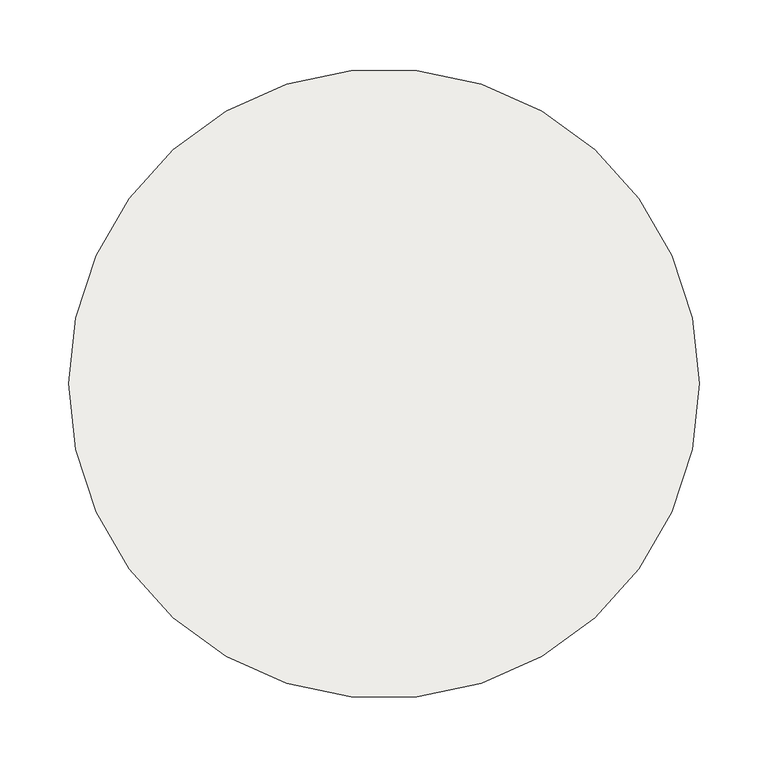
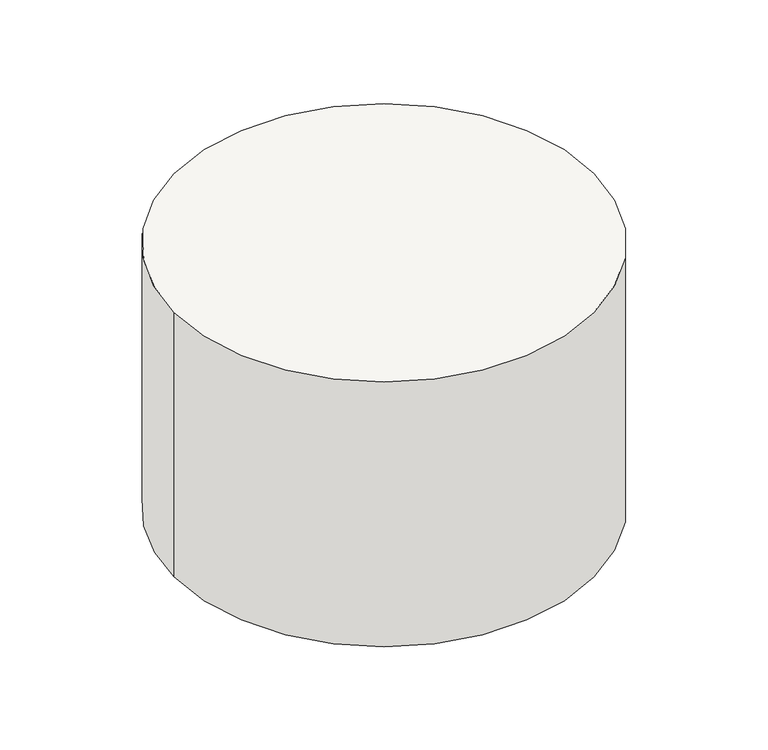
"""IFC4 building model written with IfcOpenShell, lengths in millimetres: slab geometry."""

from ifc_helpers import new_model, si_unit, point, frame, frame_2d, origin, place, context, project, spatial, circle_curve, trimmed, segment, composite_curve, outline, extrude, source, transform, mapped, element, save


def slab_1e07954e(model_context):
    return source(origin(), model_context, "Body", "SweptSolid", [
        extrude(outline(composite_curve([segment(trimmed(circle_curve(frame_2d((-15263.9413349, -697.579029)), 228.6), [point((-15492.5413349, -697.579029))], [point((-15035.3413349, -697.579029))], False, "CARTESIAN"), True, "CONTINUOUS"), segment(trimmed(circle_curve(frame_2d((-15263.9413349, -697.579029)), 228.6), [point((-15035.3413349, -697.579029))], [point((-15492.5413349, -697.579029))], False, "CARTESIAN"), True, "CONTINUOUS")], self_intersect=False)), frame((0.0, 0.0, -815.975), z_axis=(0.0, 0.0, 1.0), x_axis=(1.0, 0.0, 0.0)), (0.0, 0.0, 1.0), 304.8),
    ])


if __name__ == "__main__":
    model = new_model("IFC4")
    model_context = context("Model", 3, world=origin())
    ifc_project = project(units=[si_unit("LENGTHUNIT", "METRE", prefix="MILLI")], contexts=[model_context])
    site = spatial("IfcSite", under=ifc_project)
    building = spatial("IfcBuilding", under=site)
    placement = place(None, origin())
    slab_shape = slab_1e07954e(model_context)
    element("IfcSlab", 1, ObjectType="18\" d x 12\" deep footing : 18\" d x 12\" deep footing", at=placement, inside=building, context=model_context, shape_type="MappedRepresentation", body=[
        mapped(slab_shape, transform((0.0, 0.0, 0.0), x_axis=(1.0, 0.0, 0.0), y_axis=(0.0, 1.0, 0.0), z_axis=(0.0, 0.0, 1.0))),
    ])
    save(model, "model.ifc")
